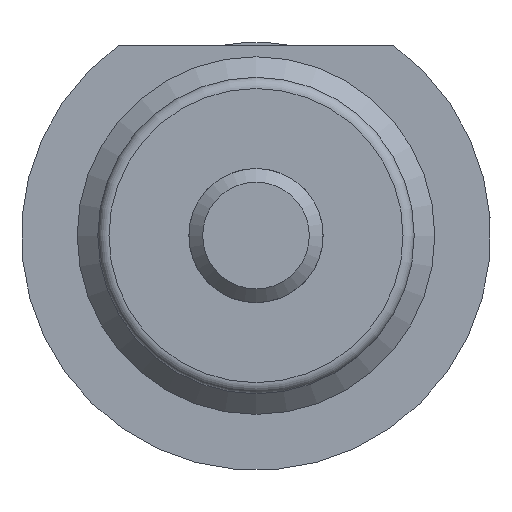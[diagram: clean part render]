
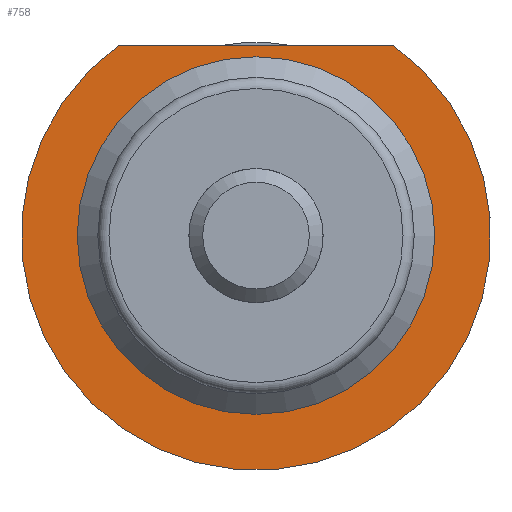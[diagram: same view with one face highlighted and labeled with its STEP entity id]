
A CAD part, left-side view. The second image highlights one B-rep face of the part: STEP entity #758.
In plain terms, the highlighted planar face has unit normal (-1, 0, 0).
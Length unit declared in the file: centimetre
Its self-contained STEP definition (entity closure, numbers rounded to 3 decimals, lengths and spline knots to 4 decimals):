
#46=PLANE($,#847);
#78=FACE_BOUND($,#205,.T.);
#126=FACE_OUTER_BOUND($,#204,.T.);
#204=EDGE_LOOP($,(#603,#604));
#205=EDGE_LOOP($,(#605));
#285=CIRCLE($,#846,0.8);
#286=CIRCLE($,#848,1.05);
#325=LINE($,#1315,#353);
#353=VECTOR($,#1029,1.2329);
#403=VERTEX_POINT($,#1309);
#404=VERTEX_POINT($,#1312);
#405=VERTEX_POINT($,#1313);
#479=EDGE_CURVE($,#403,#403,#285,.T.);
#480=EDGE_CURVE($,#404,#405,#286,.T.);
#481=EDGE_CURVE($,#404,#405,#325,.T.);
#603=ORIENTED_EDGE($,*,*,#480,.F.);
#604=ORIENTED_EDGE($,*,*,#481,.T.);
#605=ORIENTED_EDGE($,*,*,#479,.T.);
#758=ADVANCED_FACE($,(#126,#78),#46,.F.);
#846=AXIS2_PLACEMENT_3D($,#1310,#1023,#1024);
#847=AXIS2_PLACEMENT_3D($,#1311,#1025,#1026);
#848=AXIS2_PLACEMENT_3D($,#1314,#1027,#1028);
#1023=DIRECTION('center_axis',(1.,0.,0.));
#1024=DIRECTION('ref_axis',(0.,0.,
-1.));
#1025=DIRECTION('center_axis',(1.,0.,0.));
#1026=DIRECTION('ref_axis',(0.,0.,-1.));
#1027=DIRECTION('center_axis',(1.,0.,0.));
#1028=DIRECTION('ref_axis',(0.,0.,
-1.));
#1029=DIRECTION($,(0.,1.,0.));
#1309=CARTESIAN_POINT('',(1.,0.,-0.8));
#1310=CARTESIAN_POINT('Origin',(1.,0.,0.));
#1311=CARTESIAN_POINT('Origin',(1.,0.8,0.));
#1312=CARTESIAN_POINT('',(1.,-0.6164,0.85));
#1313=CARTESIAN_POINT('',(1.,0.6164,0.85));
#1314=CARTESIAN_POINT('Origin',(1.,0.,0.));
#1315=CARTESIAN_POINT($,(1.,-3.46,0.85));
